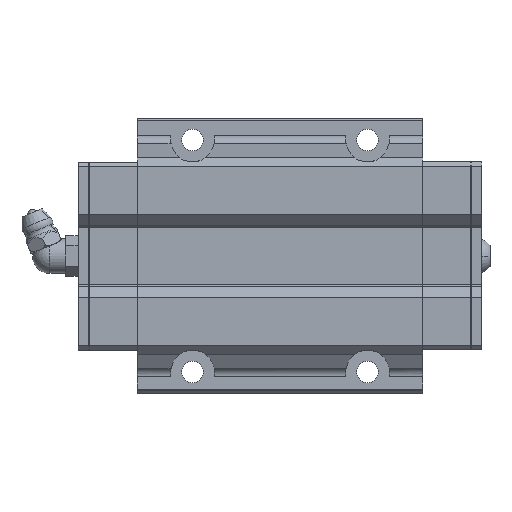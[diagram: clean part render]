
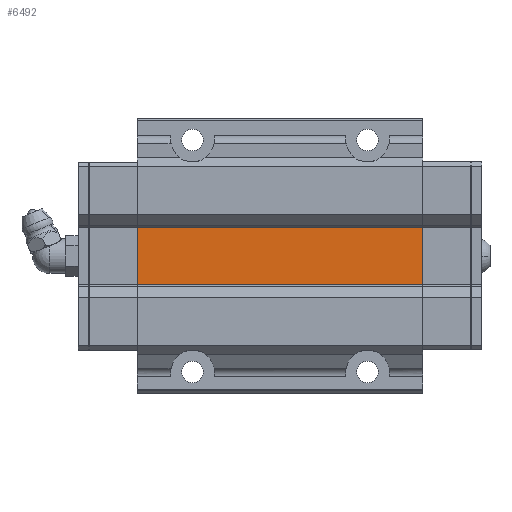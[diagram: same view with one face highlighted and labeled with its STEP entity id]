
A CAD part, front view. The second image highlights one B-rep face of the part: STEP entity #6492.
In plain terms, the highlighted planar face has unit normal (0, -1, 0).
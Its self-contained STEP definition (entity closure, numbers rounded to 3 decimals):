
#327 = VECTOR ( 'NONE', #9134, 1000. ) ;
#863 = ORIENTED_EDGE ( 'NONE', *, *, #5790, .F. ) ;
#1197 = CARTESIAN_POINT ( 'NONE',  ( -32.6, 0., 7.231 ) ) ;
#1220 = DIRECTION ( 'NONE',  ( 0., 0., 1. ) ) ;
#1489 = DIRECTION ( 'NONE',  ( 0., 0., -1. ) ) ;
#1807 = CARTESIAN_POINT ( 'NONE',  ( -32.6, 0., 7.231 ) ) ;
#2664 = CARTESIAN_POINT ( 'NONE',  ( -32.6, 0., 3.615 ) ) ;
#2816 = AXIS2_PLACEMENT_3D ( 'NONE', #1197, #3739, #16483 ) ;
#3214 = EDGE_LOOP ( 'NONE', ( #16219, #863, #14922, #8961 ) ) ;
#3663 = FACE_OUTER_BOUND ( 'NONE', #3214, .T. ) ;
#3736 = VERTEX_POINT ( 'NONE', #4615 ) ;
#3739 = DIRECTION ( 'NONE',  ( 0., -1., 0. ) ) ;
#3865 = EDGE_CURVE ( 'NONE', #3736, #14366, #15658, .T. ) ;
#4568 = CARTESIAN_POINT ( 'NONE',  ( 32.6, 0., -7.231 ) ) ;
#4615 = CARTESIAN_POINT ( 'NONE',  ( -32.6, 0., -7.231 ) ) ;
#5460 = CARTESIAN_POINT ( 'NONE',  ( 32.6, 0., 7.231 ) ) ;
#5790 = EDGE_CURVE ( 'NONE', #14366, #6250, #15596, .T. ) ;
#6250 = VERTEX_POINT ( 'NONE', #5460 ) ;
#6407 = LINE ( 'NONE', #11596, #9076 ) ;
#6453 = PLANE ( 'NONE',  #2816 ) ;
#6492 = ADVANCED_FACE ( 'NONE', ( #3663 ), #6453, .T. ) ;
#7050 = VECTOR ( 'NONE', #16106, 1000. ) ;
#8947 = VECTOR ( 'NONE', #1220, 1000. ) ;
#8961 = ORIENTED_EDGE ( 'NONE', *, *, #15973, .T. ) ;
#9076 = VECTOR ( 'NONE', #1489, 1000. ) ;
#9134 = DIRECTION ( 'NONE',  ( 1., 0., 0. ) ) ;
#10650 = VERTEX_POINT ( 'NONE', #4568 ) ;
#11596 = CARTESIAN_POINT ( 'NONE',  ( 32.6, 0., 3.615 ) ) ;
#12038 = CARTESIAN_POINT ( 'NONE',  ( -46.1, 0., -7.231 ) ) ;
#12545 = EDGE_CURVE ( 'NONE', #6250, #10650, #6407, .T. ) ;
#12708 = CARTESIAN_POINT ( 'NONE',  ( -46.1, 0., 7.231 ) ) ;
#14366 = VERTEX_POINT ( 'NONE', #1807 ) ;
#14755 = LINE ( 'NONE', #12038, #7050 ) ;
#14922 = ORIENTED_EDGE ( 'NONE', *, *, #3865, .F. ) ;
#15596 = LINE ( 'NONE', #12708, #327 ) ;
#15658 = LINE ( 'NONE', #2664, #8947 ) ;
#15973 = EDGE_CURVE ( 'NONE', #3736, #10650, #14755, .T. ) ;
#16106 = DIRECTION ( 'NONE',  ( 1., 0., 0. ) ) ;
#16219 = ORIENTED_EDGE ( 'NONE', *, *, #12545, .F. ) ;
#16483 = DIRECTION ( 'NONE',  ( 0., 0., -1. ) ) ;
